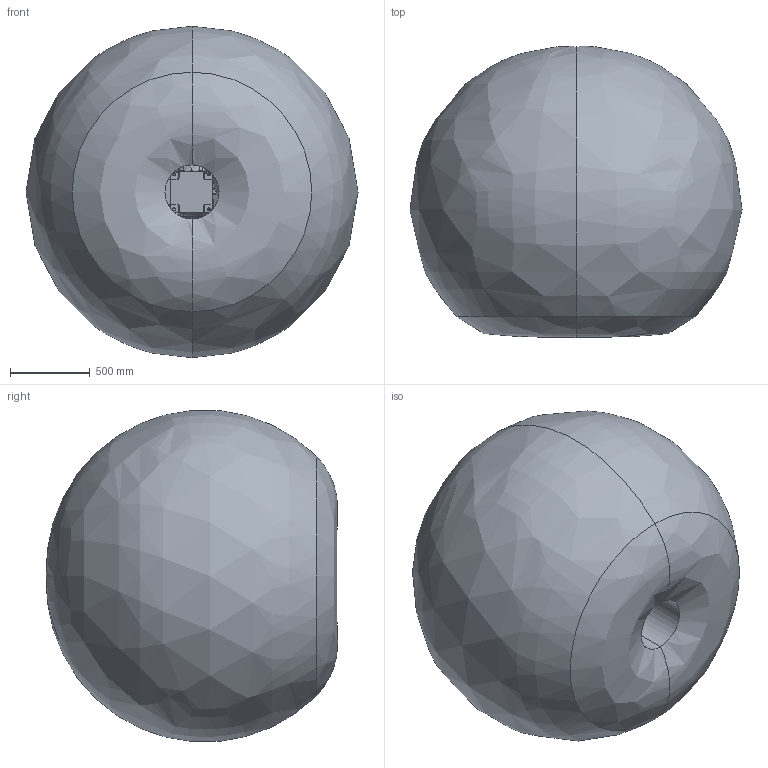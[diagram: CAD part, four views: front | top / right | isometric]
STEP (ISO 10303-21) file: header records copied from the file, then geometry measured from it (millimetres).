
FILE_DESCRIPTION (( 'STEP AP214' ), '1' );
FILE_NAME ('ER12-900V1-00000 总装部分.STEP', '2023-10-10T02:11:13', ( '' ), ( '' ), 'SwSTEP 2.0', 'SolidWorks 2018', '' );
FILE_SCHEMA (( 'AUTOMOTIVE_DESIGN' ));
Length unit declared in the file: millimetre
Products named in the file (9): 电机座部分^ER12-900V1-00000 总装部分; 手腕部分^ER12-900V1-00000 总装部分; 末端法兰^ER12-900V1-00000 总装部分; ER12-900V1-00000 軞蚾窒煦; 小臂部分^ER12-900V1-00000 总装部分; 运动范围图^ER12-900V1-00000 总装部分; 底座部分^ER12-900V1-00000 总装部分; 大臂部分^ER12-900V1-00000 总装部分; 转座部分^ER12-900V1-00000 总装部分
Assembly tree (8 placements, depth 2):
  ER12-900V1-00000 軞蚾窒煦
    转座部分^ER12-900V1-00000 总装部分
    底座部分^ER12-900V1-00000 总装部分
    大臂部分^ER12-900V1-00000 总装部分
    电机座部分^ER12-900V1-00000 总装部分
    手腕部分^ER12-900V1-00000 总装部分
    末端法兰^ER12-900V1-00000 总装部分
    小臂部分^ER12-900V1-00000 总装部分
    运动范围图^ER12-900V1-00000 总装部分
Bounding box: 2087 x 1829.8 x 2082.57 mm (x, y, z)
Volume: 4452593253 mm3; surface area: 16360151.5 mm2
Topology: 22 solids, 29 shells, 3336 faces, 8233 edges, 5201 vertices
Faces by surface type: plane 1086, cylinder 868, bspline 748, cone 448, torus 164, sphere 22
Entity records: 241307 total; most frequent: CARTESIAN_POINT 133290, ORIENTED_EDGE 16258, DIRECTION 13201, EDGE_CURVE 8131, AXIS2_PLACEMENT_3D 5287, VERTEX_POINT 5192, EDGE_LOOP 3767, ADVANCED_FACE 3336
